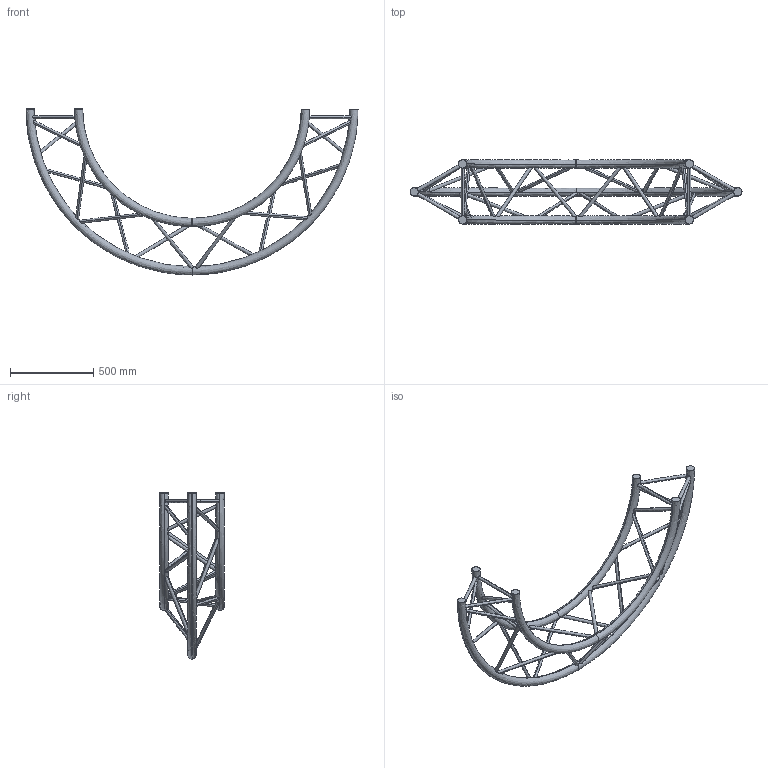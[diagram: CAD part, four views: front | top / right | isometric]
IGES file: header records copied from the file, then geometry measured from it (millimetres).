
Start section: SolidWorks IGES file using analytic representation for surfaces
Global section: file name: K:\BIBLIO\asd_biblio\SX390\Cercles\SXC39PE\SXC39200PE\SXC39200PE.IGS; native system: SolidWorks 2009; preprocessor: SolidWorks 2009; author: des3; date: 091021.135358; units: millimetre
Bounding box: 2000 x 387 x 1000 mm (x, y, z)
Surface area: 1817274 mm2 (no closed solid volume)
Topology: 0 solids, 0 shells, 78 faces, 5162 edges, 5162 vertices
Faces by surface type: revolution 60, bspline 18
